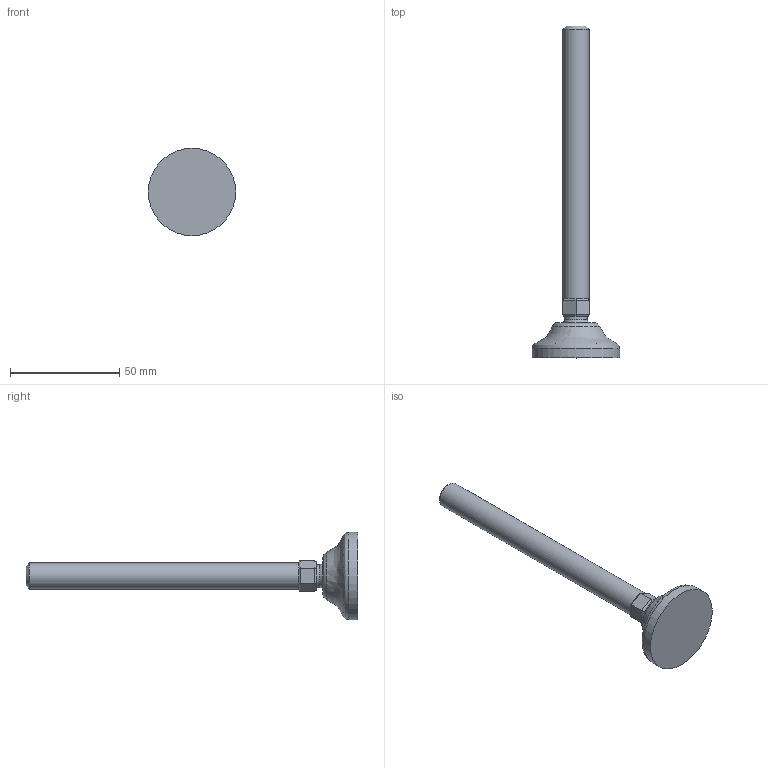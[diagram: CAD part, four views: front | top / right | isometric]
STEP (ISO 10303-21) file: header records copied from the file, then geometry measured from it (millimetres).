
FILE_DESCRIPTION(('STEP AP203'),'2;1');
FILE_NAME('10016-12.stp','2015-03-30T15:40:19',(''),(''),'2008.1.107','THINKDESIGN','');
FILE_SCHEMA(('CONFIG_CONTROL_DESIGN'));
Length unit declared in the file: millimetre
Bounding box: 40 x 152 x 40 mm (x, y, z)
Volume: 28642.1 mm3; surface area: 9326.6 mm2
Topology: 4 solids, 4 shells, 34 faces, 72 edges, 46 vertices
Faces by surface type: cylinder 15, plane 14, bspline 5
Full cylindrical faces by diameter (mm): 10.163 x1, 12 x1, 39.997 x1
Entity records: 1225 total; most frequent: CARTESIAN_POINT 419, DIRECTION 144, ORIENTED_EDGE 144, EDGE_CURVE 72, AXIS2_PLACEMENT_3D 55, VERTEX_POINT 46, EDGE_LOOP 34, FACE_OUTER_BOUND 34
